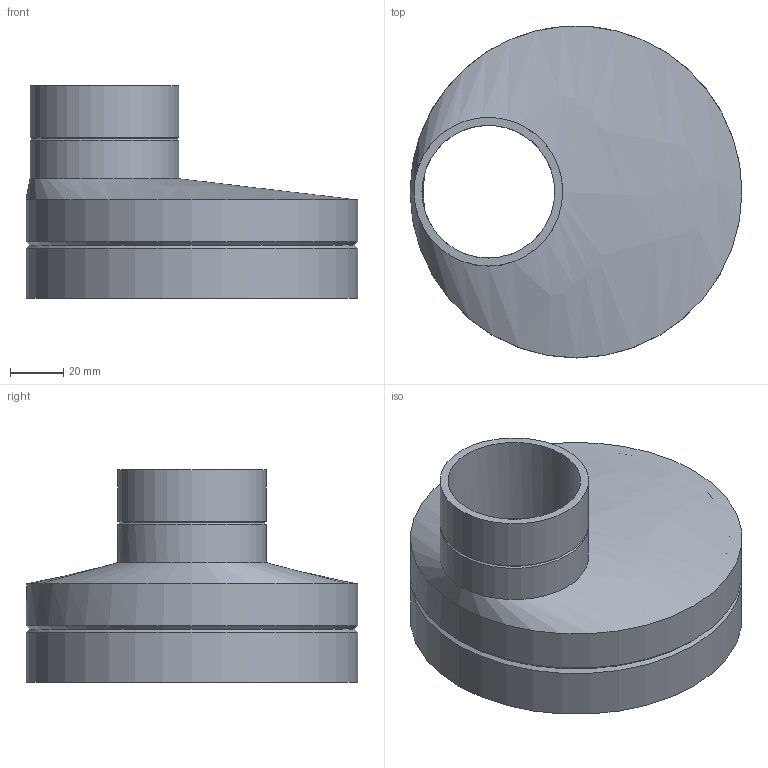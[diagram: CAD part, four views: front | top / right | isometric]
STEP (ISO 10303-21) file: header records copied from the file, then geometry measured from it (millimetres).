
FILE_DESCRIPTION(/* description */ (''),/* implementation_level */ '2;1');
FILE_NAME(/* name */ 'Z:\Geberit\Export\NewStep\368566.stp',/* time_stamp */ '2014-04-02T08:00:42+02:00',/* author */ ('nelson'),/* organization */ (''),/* preprocessor_version */ 'ST-DEVELOPER v15.2',/* originating_system */ 'Autodesk Inventor 2014',/* authorisation */ '');
FILE_SCHEMA (('AUTOMOTIVE_DESIGN { 1 0 10303 214 3 1 1 }'));
Length unit declared in the file: millimetre
Products named in the file (1): 368566
Bounding box: 125 x 125 x 80 mm (x, y, z)
Volume: 94122.7 mm3; surface area: 61773.3 mm2
Topology: 1 solids, 1 shells, 14 faces, 38 edges, 26 vertices
Faces by surface type: cylinder 6, cone 4, bspline 2, plane 2
Full cylindrical faces by diameter (mm): 50 x1, 56 x2, 115.2 x1, 125 x2
Entity records: 417 total; most frequent: CARTESIAN_POINT 93, DIRECTION 66, ORIENTED_EDGE 44, AXIS2_PLACEMENT_3D 33, EDGE_LOOP 26, EDGE_CURVE 22, CIRCLE 20, VERTEX_POINT 20
